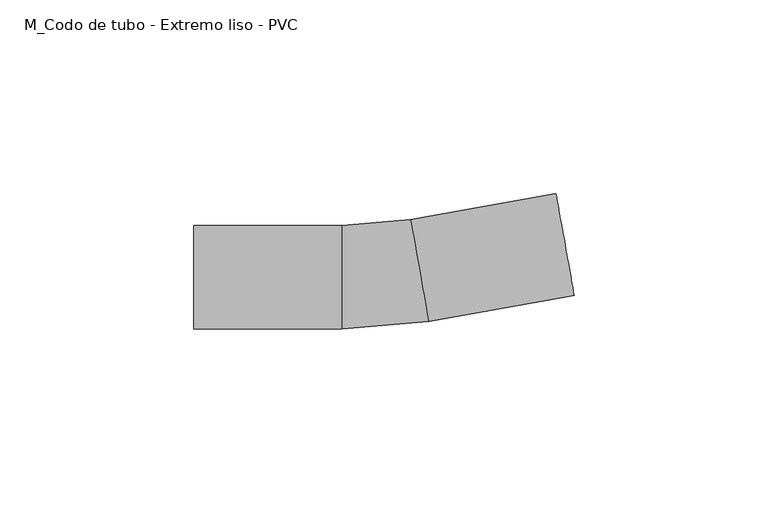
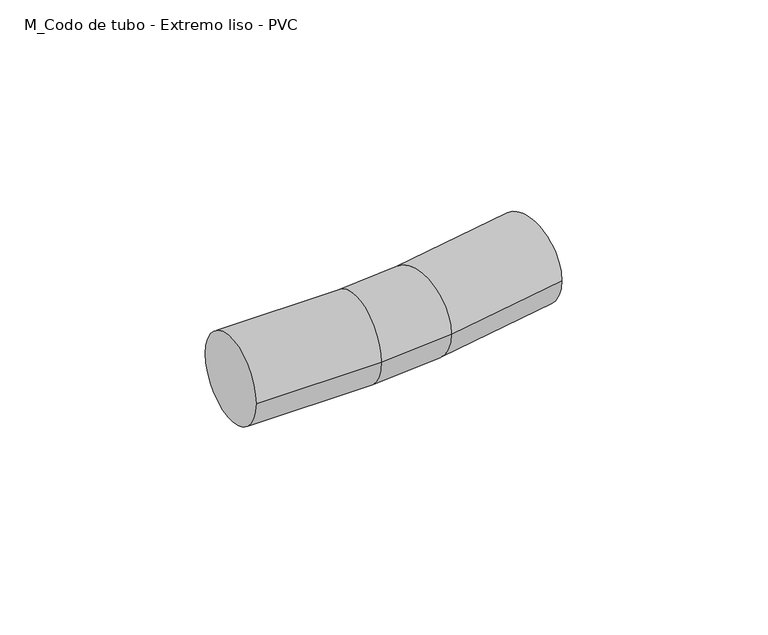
"""IFC4 building model written with IfcOpenShell, lengths in millimetres: cable carrier fitting geometry, M_Codo de tubo - Extremo liso - PVC : CODO ILUMINACION."""

from ifc_helpers import new_model, si_unit, point, frame, origin, place, context, project, spatial, circle_curve, ellipse_curve, trimmed, source, transform, mapped, element, save
from ifc_brep_helpers import plane_surface, cylinder_surface, revolved_surface, advanced_brep


def m_codo_de_tubo_extremo_liso_pvc_4ed3fce8(model_context):
    return source(origin(), model_context, "Body", "AdvancedBrep", [
        advanced_brep(
        [(-48.2360982, -13.335, 0.0), (-48.2360982, 13.335, 0.0), (-10.1360982, -13.335, 0.0), (-10.1360982, 13.335, 0.0), (7.6312841, 14.9106074, 0.0), (12.3245549, -11.3431944, 0.0), (49.829986, -4.6385218, 0.0), (45.1367152, 21.61528, 0.0)],
        [
            (0, 1, circle_curve(frame((-48.2360982, 0.0, 0.0), z_axis=(-1.0, 0.0, 0.0), x_axis=(0.0, 1.0, 0.0)), 13.335)),
            (1, 0, circle_curve(frame((-48.2360982, 0.0, 0.0), z_axis=(-1.0, 0.0, 0.0), x_axis=(0.0, 1.0, 0.0)), 13.335)),
            (0, 2),
            (2, 3, circle_curve(frame((-10.1360982, 0.0, 0.0), z_axis=(-1.0, 0.0, 0.0), x_axis=(0.0, 1.0, 0.0)), 13.335)),
            (3, 1),
            (3, 2, circle_curve(frame((-10.1360982, 0.0, 0.0), z_axis=(-1.0, 0.0, 0.0), x_axis=(0.0, 1.0, 0.0)), 13.335)),
            (4, 3, circle_curve(frame((-10.1360982, 114.3, 0.0), z_axis=(0.0, 0.0, -1.0), x_axis=(0.0, -1.0, 0.0)), 100.965)),
            (2, 5, circle_curve(frame((-10.1360982, 114.3, 0.0), z_axis=(0.0, 0.0, 1.0), x_axis=(0.0, -1.0, 0.0)), 127.635)),
            (5, 4, circle_curve(frame((9.9779195, 1.7837065, 0.0), z_axis=(-0.9843945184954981, -0.17597565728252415, 0.0), x_axis=(-0.17597565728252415, 0.9843945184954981, 0.0)), 13.335)),
            (4, 5, circle_curve(frame((9.9779195, 1.7837065, 0.0), z_axis=(-0.9843945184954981, -0.1759756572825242, 0.0), x_axis=(-0.1759756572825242, 0.9843945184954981, 0.0)), 13.335)),
            (6, 7, circle_curve(frame((47.4833506, 8.4883791, 0.0), z_axis=(0.9843945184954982, 0.17597565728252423, 0.0), x_axis=(-0.17597565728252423, 0.9843945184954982, 0.0)), 13.335)),
            (7, 6, circle_curve(frame((47.4833506, 8.4883791, 0.0), z_axis=(0.9843945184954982, 0.17597565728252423, 0.0), x_axis=(-0.17597565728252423, 0.9843945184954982, 0.0)), 13.335)),
            (5, 6),
            (7, 4),
        ],
        [
            plane_surface(frame((-48.2360982, 0.0, 0.0), z_axis=(-1.0, 0.0, 0.0), x_axis=(0.0, 0.0, 1.0))),
            cylinder_surface(frame((-48.2360982, 0.0, 0.0), z_axis=(-1.0, 0.0, 0.0), x_axis=(0.0, 1.0, 0.0)), 13.335),
            revolved_surface(trimmed(ellipse_curve(frame((-10.1360982, 0.0, 0.0), z_axis=(-1.0, 0.0, 0.0), x_axis=(0.0, 1.0, 0.0)), 13.335, 13.335), [point((-10.1360982, -13.335, 0.0))], [point((-10.1360982, 13.335, 0.0))], True, "CARTESIAN"), (-10.1360982, 114.3, 0.0), (0.0, 0.0, 1.0)),
            revolved_surface(trimmed(ellipse_curve(frame((-10.1360982, 0.0, 0.0), z_axis=(-1.0, 0.0, 0.0), x_axis=(0.0, 1.0, 0.0)), 13.335, 13.335), [point((-10.1360982, 13.335, 0.0))], [point((-10.1360982, -13.335, 0.0))], True, "CARTESIAN"), (-10.1360982, 114.3, 0.0), (0.0, 0.0, 1.0)),
            plane_surface(frame((47.4833506, 8.4883791, 0.0), z_axis=(0.9843945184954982, 0.17597565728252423, 0.0), x_axis=(0.0, 0.0, 1.0))),
            cylinder_surface(frame((9.9779195, 1.7837065, 0.0), z_axis=(-0.9843945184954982, -0.17597565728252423, 0.0), x_axis=(-0.17597565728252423, 0.9843945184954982, 0.0)), 13.335),
        ],
        [
            (0, [[1, 2]]),
            (1, [[-1, 3, 4, 5]]),
            (1, [[-2, -5, 6, -3]]),
            (2, [[7, -4, 8, 9]]),
            (3, [[-8, -6, -7, 10]]),
            (4, [[11, 12]]),
            (5, [[-9, 13, -12, 14]]),
            (5, [[-10, -14, -11, -13]]),
        ],
    ),
    ])


if __name__ == "__main__":
    model = new_model("IFC4")
    model_context = context("Model", 3, world=origin())
    ifc_project = project(units=[si_unit("LENGTHUNIT", "METRE", prefix="MILLI")], contexts=[model_context])
    site = spatial("IfcSite", under=ifc_project)
    building = spatial("IfcBuilding", under=site)
    placement = place(None, origin())
    m_codo_de_tubo_extremo_liso_pvc_shape = m_codo_de_tubo_extremo_liso_pvc_4ed3fce8(model_context)
    element("IfcCableCarrierFitting", 1, ObjectType="M_Codo de tubo - Extremo liso - PVC : CODO ILUMINACION", at=placement, inside=building, context=model_context, shape_type="MappedRepresentation", body=[
        mapped(m_codo_de_tubo_extremo_liso_pvc_shape, transform((0.0, 0.0, 0.0), x_axis=(1.0, 0.0, 0.0), y_axis=(0.0, 1.0, 0.0), z_axis=(0.0, 0.0, 1.0))),
    ])
    save(model, "model.ifc")
